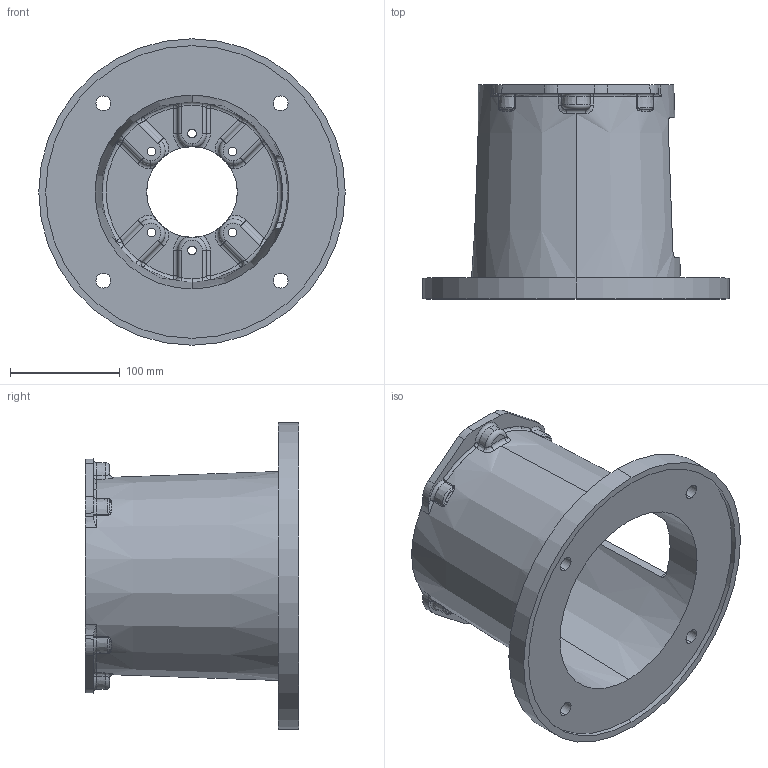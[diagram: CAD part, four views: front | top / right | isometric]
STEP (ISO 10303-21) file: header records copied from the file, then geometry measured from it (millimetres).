
FILE_DESCRIPTION (( 'STEP AP203' ), '1' );
FILE_NAME ('M284752A.STEP', '2007-12-21T20:56:06', ( 'Chris McCoy' ), ( 'Magnaloy Coupling Co' ), 'SwSTEP 2.0', 'SolidWorks 2007', '' );
FILE_SCHEMA (( 'CONFIG_CONTROL_DESIGN' ));
Length unit declared in the file: inch
Products named in the file (1): M284752A
Bounding box: 279.4 x 195.07 x 279.4 mm (x, y, z)
Volume: 1463958.9 mm3; surface area: 330174.2 mm2
Topology: 1 solids, 1 shells, 355 faces, 902 edges, 531 vertices
Faces by surface type: torus 107, cylinder 86, bspline 64, plane 50, sphere 24, cone 24
Entity records: 14563 total; most frequent: CARTESIAN_POINT 6405, ORIENTED_EDGE 1764, DIRECTION 1696, EDGE_CURVE 882, AXIS2_PLACEMENT_3D 768, VERTEX_POINT 531, CIRCLE 476, EDGE_LOOP 381
